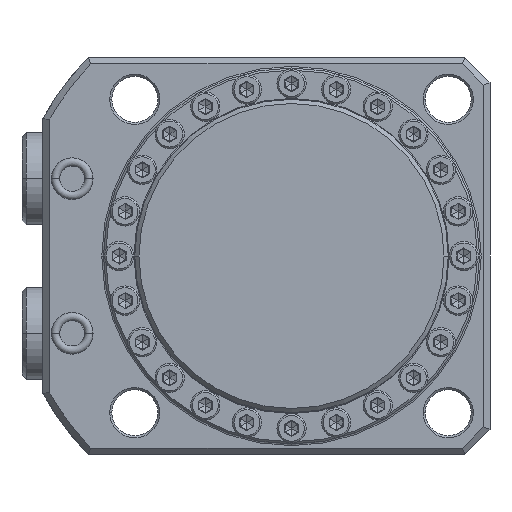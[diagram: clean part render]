
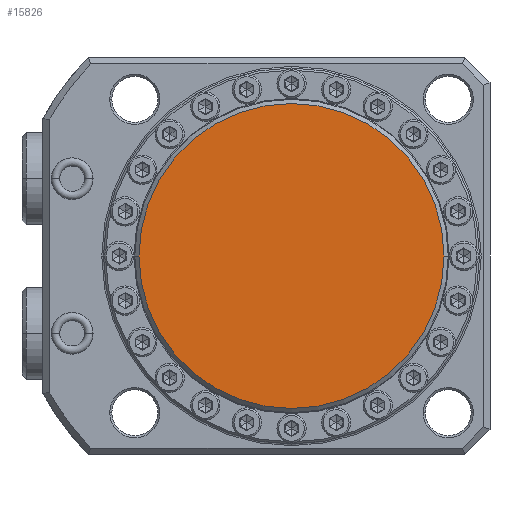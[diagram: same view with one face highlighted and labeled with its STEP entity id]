
A CAD part, front view. The second image highlights one B-rep face of the part: STEP entity #15826.
In plain terms, the highlighted planar face has unit normal (0, -1, 0) as drawn and (0, 0, 1) by its records, which use the part's own axes.
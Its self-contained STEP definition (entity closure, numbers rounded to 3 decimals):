
#13733=CARTESIAN_POINT('',(0.,0.,0.));
#13734=DIRECTION('',(0.,0.,1.));
#13735=DIRECTION('',(-1.,0.,0.));
#13736=AXIS2_PLACEMENT_3D('',#13733,#13734,#13735);
#13738=CARTESIAN_POINT('',(0.,0.,0.));
#13739=DIRECTION('',(0.,0.,1.));
#13740=DIRECTION('',(1.,0.,0.));
#13741=AXIS2_PLACEMENT_3D('',#13738,#13739,#13740);
#15399=CARTESIAN_POINT('',(-36.5,0.,0.));
#15400=CARTESIAN_POINT('',(36.5,0.,0.));
#15401=VERTEX_POINT('',#15399);
#15402=VERTEX_POINT('',#15400);
#15815=CARTESIAN_POINT('',(0.,0.,0.));
#15816=DIRECTION('',(0.,0.,1.));
#15817=DIRECTION('',(-1.,0.,0.));
#15818=AXIS2_PLACEMENT_3D('',#15815,#15816,#15817);
#15819=PLANE('',#15818);
#15821=ORIENTED_EDGE('',*,*,#15820,.F.);
#15823=ORIENTED_EDGE('',*,*,#15822,.F.);
#15824=EDGE_LOOP('',(#15821,#15823));
#15825=FACE_OUTER_BOUND('',#15824,.F.);
#15826=ADVANCED_FACE('',(#15825),#15819,.T.);
#13737=CIRCLE('',#13736,36.5);
#13742=CIRCLE('',#13741,36.5);
#15820=EDGE_CURVE('',#15401,#15402,#13737,.T.);
#15822=EDGE_CURVE('',#15402,#15401,#13742,.T.);
